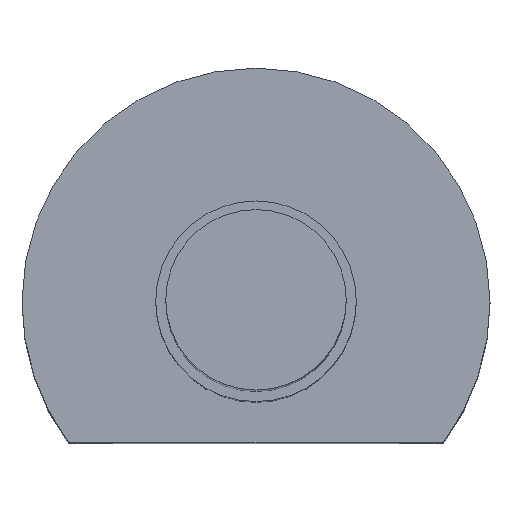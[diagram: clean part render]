
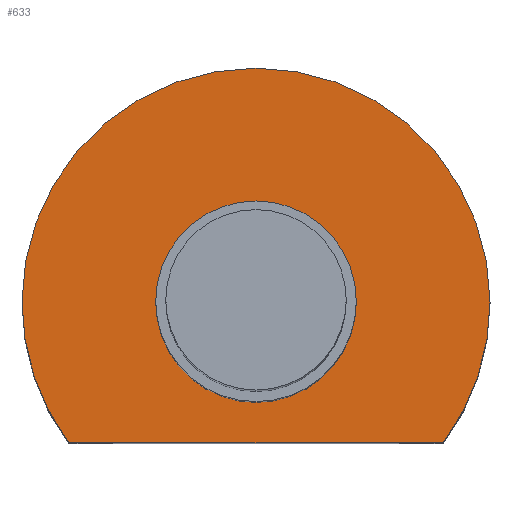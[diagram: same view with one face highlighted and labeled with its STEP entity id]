
A CAD part, top view. The second image highlights one B-rep face of the part: STEP entity #633.
In plain terms, the highlighted planar face has unit normal (0, 0, 1).
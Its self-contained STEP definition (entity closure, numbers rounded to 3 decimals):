
#4 = CIRCLE ( 'NONE', #562, 7. ) ;
#9 = DIRECTION ( 'NONE',  ( 1., 0., 0. ) ) ;
#18 = CARTESIAN_POINT ( 'NONE',  ( 5.6, -4.2, 22. ) ) ;
#30 = DIRECTION ( 'NONE',  ( 0., 0., 1. ) ) ;
#47 = VERTEX_POINT ( 'NONE', #18 ) ;
#53 = EDGE_CURVE ( 'NONE', #559, #249, #4, .T. ) ;
#57 = AXIS2_PLACEMENT_3D ( 'NONE', #427, #121, #480 ) ;
#61 = DIRECTION ( 'NONE',  ( 1., 0., 0. ) ) ;
#76 = CARTESIAN_POINT ( 'NONE',  ( 0., 0., 22. ) ) ;
#77 = EDGE_CURVE ( 'NONE', #667, #47, #347, .T. ) ;
#82 = CARTESIAN_POINT ( 'NONE',  ( 0., 0., 22. ) ) ;
#85 = CARTESIAN_POINT ( 'NONE',  ( -3., 0., 22. ) ) ;
#105 = CIRCLE ( 'NONE', #57, 3. ) ;
#109 = EDGE_CURVE ( 'NONE', #472, #442, #105, .T. ) ;
#121 = DIRECTION ( 'NONE',  ( 0., 0., 1. ) ) ;
#133 = DIRECTION ( 'NONE',  ( 1., 0., 0. ) ) ;
#135 = AXIS2_PLACEMENT_3D ( 'NONE', #76, #437, #133 ) ;
#161 = AXIS2_PLACEMENT_3D ( 'NONE', #288, #658, #344 ) ;
#174 = AXIS2_PLACEMENT_3D ( 'NONE', #490, #30, #394 ) ;
#180 = EDGE_CURVE ( 'NONE', #442, #472, #345, .T. ) ;
#191 = CARTESIAN_POINT ( 'NONE',  ( -5.6, -4.2, 22. ) ) ;
#203 = ORIENTED_EDGE ( 'NONE', *, *, #366, .T. ) ;
#205 = ORIENTED_EDGE ( 'NONE', *, *, #53, .T. ) ;
#232 = PLANE ( 'NONE',  #174 ) ;
#236 = VECTOR ( 'NONE', #61, 1000. ) ;
#242 = CARTESIAN_POINT ( 'NONE',  ( 7., 0., 22. ) ) ;
#249 = VERTEX_POINT ( 'NONE', #325 ) ;
#259 = ORIENTED_EDGE ( 'NONE', *, *, #109, .F. ) ;
#288 = CARTESIAN_POINT ( 'NONE',  ( 0., 0., 22. ) ) ;
#297 = DIRECTION ( 'NONE',  ( 0., 0., 1. ) ) ;
#315 = CARTESIAN_POINT ( 'NONE',  ( -5.6, -4.2, 22. ) ) ;
#325 = CARTESIAN_POINT ( 'NONE',  ( -7., 0., 22. ) ) ;
#344 = DIRECTION ( 'NONE',  ( 1., 0., 0. ) ) ;
#345 = CIRCLE ( 'NONE', #135, 3. ) ;
#347 = LINE ( 'NONE', #315, #236 ) ;
#365 = CIRCLE ( 'NONE', #161, 7. ) ;
#366 = EDGE_CURVE ( 'NONE', #249, #667, #365, .T. ) ;
#368 = EDGE_LOOP ( 'NONE', ( #259, #581 ) ) ;
#394 = DIRECTION ( 'NONE',  ( 1., 0., 0. ) ) ;
#427 = CARTESIAN_POINT ( 'NONE',  ( 0., 0., 22. ) ) ;
#434 = DIRECTION ( 'NONE',  ( 0., 0., 1. ) ) ;
#437 = DIRECTION ( 'NONE',  ( 0., 0., 1. ) ) ;
#442 = VERTEX_POINT ( 'NONE', #597 ) ;
#472 = VERTEX_POINT ( 'NONE', #85 ) ;
#480 = DIRECTION ( 'NONE',  ( 1., 0., 0. ) ) ;
#490 = CARTESIAN_POINT ( 'NONE',  ( 0., 0., 22. ) ) ;
#521 = CIRCLE ( 'NONE', #601, 7. ) ;
#559 = VERTEX_POINT ( 'NONE', #242 ) ;
#562 = AXIS2_PLACEMENT_3D ( 'NONE', #82, #434, #9 ) ;
#569 = ORIENTED_EDGE ( 'NONE', *, *, #572, .T. ) ;
#572 = EDGE_CURVE ( 'NONE', #47, #559, #521, .T. ) ;
#581 = ORIENTED_EDGE ( 'NONE', *, *, #180, .F. ) ;
#594 = EDGE_LOOP ( 'NONE', ( #569, #205, #203, #671 ) ) ;
#597 = CARTESIAN_POINT ( 'NONE',  ( 3., 0., 22. ) ) ;
#601 = AXIS2_PLACEMENT_3D ( 'NONE', #606, #297, #664 ) ;
#606 = CARTESIAN_POINT ( 'NONE',  ( 0., 0., 22. ) ) ;
#614 = FACE_OUTER_BOUND ( 'NONE', #594, .T. ) ;
#622 = FACE_BOUND ( 'NONE', #368, .T. ) ;
#633 = ADVANCED_FACE ( 'NONE', ( #622, #614 ), #232, .T. ) ;
#658 = DIRECTION ( 'NONE',  ( 0., 0., 1. ) ) ;
#664 = DIRECTION ( 'NONE',  ( 1., 0., 0. ) ) ;
#667 = VERTEX_POINT ( 'NONE', #191 ) ;
#671 = ORIENTED_EDGE ( 'NONE', *, *, #77, .T. ) ;
